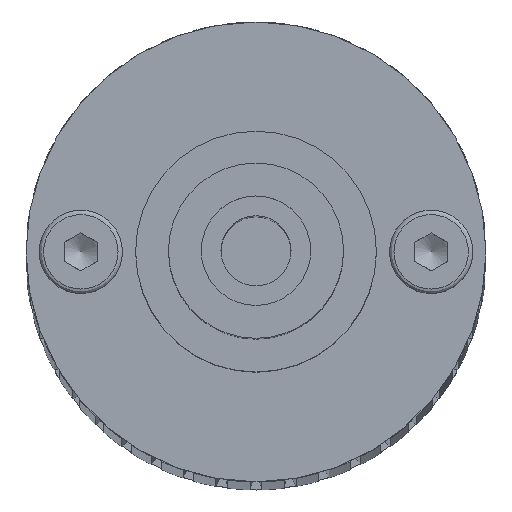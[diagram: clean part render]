
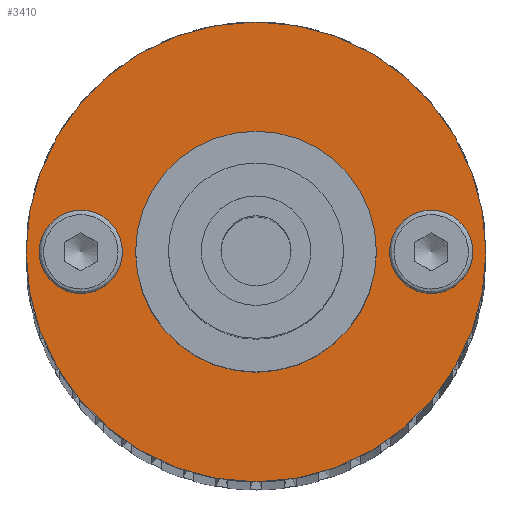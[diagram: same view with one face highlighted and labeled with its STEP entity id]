
A CAD part, top view. The second image highlights one B-rep face of the part: STEP entity #3410.
In plain terms, the highlighted planar face has unit normal (0, 0, 1).
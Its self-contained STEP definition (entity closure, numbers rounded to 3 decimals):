
#135=FACE_BOUND('',#634,.T.);
#136=FACE_BOUND('',#635,.T.);
#137=FACE_BOUND('',#636,.T.);
#253=CIRCLE('',#3803,1.);
#255=CIRCLE('',#3806,1.);
#257=CIRCLE('',#3809,10.5);
#258=CIRCLE('',#3810,5.5);
#441=FACE_OUTER_BOUND('',#633,.T.);
#633=EDGE_LOOP('',(#2993));
#634=EDGE_LOOP('',(#2994));
#635=EDGE_LOOP('',(#2995));
#636=EDGE_LOOP('',(#2996));
#1641=VERTEX_POINT('',#5726);
#1643=VERTEX_POINT('',#5732);
#1645=VERTEX_POINT('',#5738);
#1646=VERTEX_POINT('',#5740);
#2099=EDGE_CURVE('',#1641,#1641,#253,.T.);
#2102=EDGE_CURVE('',#1643,#1643,#255,.T.);
#2105=EDGE_CURVE('',#1645,#1645,#257,.T.);
#2106=EDGE_CURVE('',#1646,#1646,#258,.T.);
#2993=ORIENTED_EDGE('',*,*,#2105,.T.);
#2994=ORIENTED_EDGE('',*,*,#2099,.T.);
#2995=ORIENTED_EDGE('',*,*,#2102,.T.);
#2996=ORIENTED_EDGE('',*,*,#2106,.F.);
#3245=PLANE('',#3808);
#3410=ADVANCED_FACE('',(#441,#135,#136,#137),#3245,.T.);
#3803=AXIS2_PLACEMENT_3D('',#5727,#4685,#4686);
#3806=AXIS2_PLACEMENT_3D('',#5733,#4692,#4693);
#3808=AXIS2_PLACEMENT_3D('',#5737,#4697,#4698);
#3809=AXIS2_PLACEMENT_3D('',#5739,#4699,#4700);
#3810=AXIS2_PLACEMENT_3D('',#5741,#4701,#4702);
#4685=DIRECTION('center_axis',(0.,0.,-1.));
#4686=DIRECTION('ref_axis',(1.,0.,0.));
#4692=DIRECTION('center_axis',(0.,0.,-1.));
#4693=DIRECTION('ref_axis',(1.,0.,0.));
#4697=DIRECTION('center_axis',(0.,0.,1.));
#4698=DIRECTION('ref_axis',(1.,0.,0.));
#4699=DIRECTION('center_axis',(0.,0.,1.));
#4700=DIRECTION('ref_axis',(1.,0.,0.));
#4701=DIRECTION('center_axis',(0.,0.,1.));
#4702=DIRECTION('ref_axis',(1.,0.,0.));
#5726=CARTESIAN_POINT('',(7.,0.,10.));
#5727=CARTESIAN_POINT('Origin',(8.,0.,10.));
#5732=CARTESIAN_POINT('',(-9.,0.,10.));
#5733=CARTESIAN_POINT('Origin',(-8.,0.,10.));
#5737=CARTESIAN_POINT('Origin',(0.,0.,10.));
#5738=CARTESIAN_POINT('',(-10.5,0.,10.));
#5739=CARTESIAN_POINT('Origin',(0.,0.,10.));
#5740=CARTESIAN_POINT('',(-5.5,0.,10.));
#5741=CARTESIAN_POINT('Origin',(0.,0.,10.));
